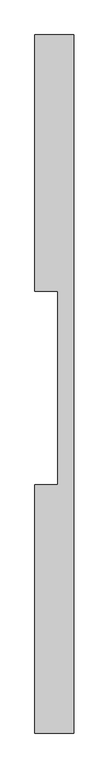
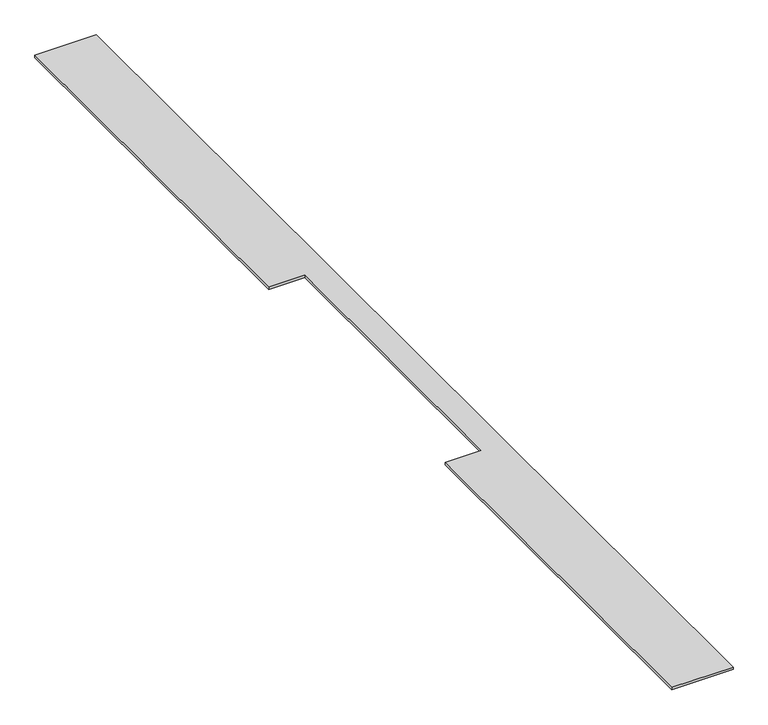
"""IFC4 building model written with IfcOpenShell, lengths in millimetres: proxy geometry, Фиброцементная сайдинг-панель LATONIT_1 прямоугольное отверстие : 8 мм."""

from ifc_helpers import new_model, si_unit, frame, origin, place, context, project, spatial, polyline, outline, extrude, source, transform, mapped, element, save


def generic_models_6bfc909d(model_context):
    return source(origin(), model_context, "Body", "SweptSolid", [
        extrude(outline(polyline([(200.0, 3600.0), (200.0, 0.0), (0.0, 0.0), (0.0, 1281.5), (118.0, 1281.5), (118.0, 2278.5), (0.0, 2278.5), (0.0, 3600.0), (200.0, 3600.0)])), frame((0.0, 0.0, 242.0), z_axis=(0.0, 0.0, 1.0), x_axis=(1.0, 0.0, 0.0)), (0.0, 0.0, 1.0), 8.0),
    ])


if __name__ == "__main__":
    model = new_model("IFC4")
    model_context = context("Model", 3, world=origin())
    ifc_project = project(units=[si_unit("LENGTHUNIT", "METRE", prefix="MILLI")], contexts=[model_context])
    site = spatial("IfcSite", under=ifc_project)
    building = spatial("IfcBuilding", under=site)
    placement = place(None, origin())
    generic_models_shape = generic_models_6bfc909d(model_context)
    element("IfcBuildingElementProxy", 1, Name="Фиброцементная сайдинг-панель LATONIT_1 прямоугольное отверстие : 8 мм", ObjectType="Фиброцементная сайдинг-панель LATONIT_1 прямоугольное отверстие : 8 мм", at=placement, inside=building, context=model_context, shape_type="MappedRepresentation", body=[
        mapped(generic_models_shape, transform((0.0, 0.0, 0.0), x_axis=(1.0, 0.0, 0.0), y_axis=(0.0, 1.0, 0.0), z_axis=(0.0, 0.0, 1.0))),
    ])
    save(model, "model.ifc")
